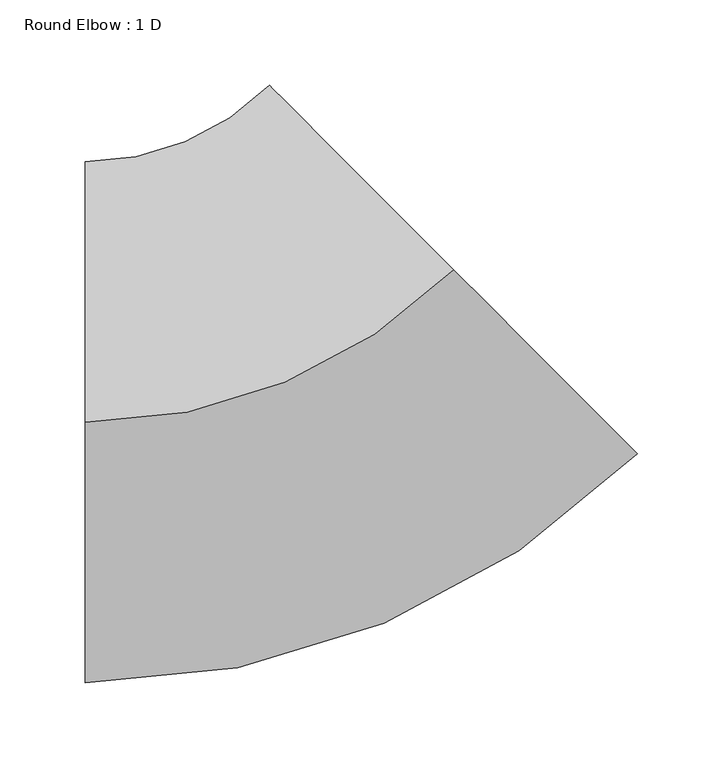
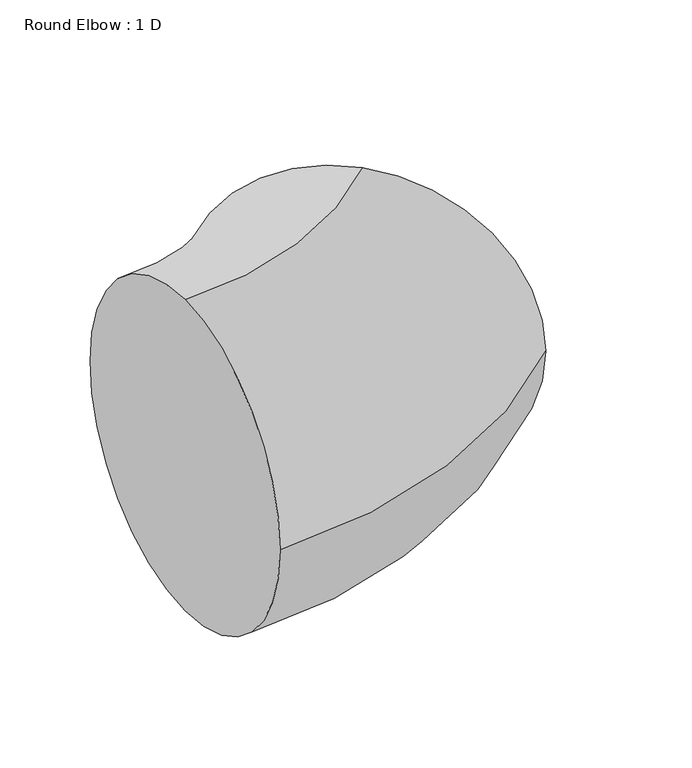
"""IFC4 building model written with IfcOpenShell, lengths in millimetres: duct fitting geometry, Round Elbow : 1 D."""

from ifc_helpers import new_model, si_unit, point, frame, origin, place, context, project, spatial, circle_curve, ellipse_curve, trimmed, source, transform, mapped, element, save
from ifc_brep_helpers import plane_surface, revolved_surface, advanced_brep


def round_elbow_1_d_28128332(model_context):
    return source(origin(), model_context, "Body", "AdvancedBrep", [
        advanced_brep(
        [(-126.2522938, 0.0, 152.4), (-126.2522938, 152.4, 0.0), (-126.2522938, 0.0, -152.4), (-126.2522938, -152.4, 0.0), (89.2738531, 89.2738531, 152.4), (197.0369265, -18.4892204, 0.0), (89.2738531, 89.2738531, -152.4), (-18.4892204, 197.0369265, 0.0)],
        [
            (0, 1, circle_curve(frame((-126.2522938, 0.0, 0.0), z_axis=(-1.0, 0.0, 0.0), x_axis=(0.0, 1.0, 0.0)), 152.4)),
            (1, 2, circle_curve(frame((-126.2522938, 0.0, 0.0), z_axis=(-1.0, 0.0, 0.0), x_axis=(0.0, 1.0, 0.0)), 152.4)),
            (2, 3, circle_curve(frame((-126.2522938, 0.0, 0.0), z_axis=(-1.0, 0.0, 0.0), x_axis=(0.0, 1.0, 0.0)), 152.4)),
            (3, 0, circle_curve(frame((-126.2522938, 0.0, 0.0), z_axis=(-1.0, 0.0, 0.0), x_axis=(0.0, 1.0, 0.0)), 152.4)),
            (4, 5, circle_curve(frame((89.2738531, 89.2738531, 0.0), z_axis=(0.707106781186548, 0.707106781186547, 0.0), x_axis=(-0.707106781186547, 0.707106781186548, 0.0)), 152.4)),
            (5, 6, circle_curve(frame((89.2738531, 89.2738531, 0.0), z_axis=(0.707106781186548, 0.707106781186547, 0.0), x_axis=(-0.707106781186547, 0.707106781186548, 0.0)), 152.4)),
            (6, 7, circle_curve(frame((89.2738531, 89.2738531, 0.0), z_axis=(0.707106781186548, 0.707106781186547, 0.0), x_axis=(-0.707106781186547, 0.707106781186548, 0.0)), 152.4)),
            (7, 4, circle_curve(frame((89.2738531, 89.2738531, 0.0), z_axis=(0.707106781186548, 0.707106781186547, 0.0), x_axis=(-0.707106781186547, 0.707106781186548, 0.0)), 152.4)),
            (7, 1, circle_curve(frame((-126.2522938, 304.8, 0.0), z_axis=(0.0, 0.0, -1.0), x_axis=(0.0, -1.0, 0.0)), 152.4)),
            (0, 4, circle_curve(frame((-126.2522938, 304.8, 152.4), z_axis=(0.0, 0.0, 1.0), x_axis=(0.0, -1.0, 0.0)), 304.8)),
            (6, 2, circle_curve(frame((-126.2522938, 304.8, -152.4), z_axis=(0.0, 0.0, -1.0), x_axis=(0.0, -1.0, 0.0)), 304.8)),
            (5, 3, circle_curve(frame((-126.2522938, 304.8, 0.0), z_axis=(0.0, 0.0, -1.0), x_axis=(0.0, -1.0, 0.0)), 457.2)),
        ],
        [
            plane_surface(frame((-126.2522938, 0.0, 0.0), z_axis=(-1.0, 0.0, 0.0), x_axis=(0.0, 0.0, 1.0))),
            plane_surface(frame((89.2738531, 89.2738531, 0.0), z_axis=(0.707106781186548, 0.7071067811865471, 0.0), x_axis=(0.0, 0.0, 1.0))),
            revolved_surface(trimmed(ellipse_curve(frame((-126.2522938, 0.0, 0.0), z_axis=(-1.0, 0.0, 0.0), x_axis=(0.0, 1.0, 0.0)), 152.4, 152.4), [point((-126.2522938, 0.0, 152.4))], [point((-126.2522938, 152.4, 0.0))], True, "CARTESIAN"), (-126.2522938, 304.8, 0.0), (0.0, 0.0, 1.0)),
            revolved_surface(trimmed(ellipse_curve(frame((-126.2522938, 0.0, 0.0), z_axis=(-1.0, 0.0, 0.0), x_axis=(0.0, 1.0, 0.0)), 152.4, 152.4), [point((-126.2522938, 152.4, 0.0))], [point((-126.2522938, 0.0, -152.4))], True, "CARTESIAN"), (-126.2522938, 304.8, 0.0), (0.0, 0.0, 1.0)),
            revolved_surface(trimmed(ellipse_curve(frame((-126.2522938, 0.0, 0.0), z_axis=(-1.0, 0.0, 0.0), x_axis=(0.0, 1.0, 0.0)), 152.4, 152.4), [point((-126.2522938, 0.0, -152.4))], [point((-126.2522938, -152.4, 0.0))], True, "CARTESIAN"), (-126.2522938, 304.8, 0.0), (0.0, 0.0, 1.0)),
            revolved_surface(trimmed(ellipse_curve(frame((-126.2522938, 0.0, 0.0), z_axis=(-1.0, 0.0, 0.0), x_axis=(0.0, 1.0, 0.0)), 152.4, 152.4), [point((-126.2522938, -152.4, 0.0))], [point((-126.2522938, 0.0, 152.4))], True, "CARTESIAN"), (-126.2522938, 304.8, 0.0), (0.0, 0.0, 1.0)),
        ],
        [
            (0, [[1, 2, 3, 4]]),
            (1, [[5, 6, 7, 8]]),
            (2, [[9, -1, 10, -8]]),
            (3, [[11, -2, -9, -7]]),
            (4, [[12, -3, -11, -6]]),
            (5, [[-10, -4, -12, -5]]),
        ],
    ),
    ])


if __name__ == "__main__":
    model = new_model("IFC4")
    model_context = context("Model", 3, world=origin())
    ifc_project = project(units=[si_unit("LENGTHUNIT", "METRE", prefix="MILLI")], contexts=[model_context])
    site = spatial("IfcSite", under=ifc_project)
    building = spatial("IfcBuilding", under=site)
    placement = place(None, origin())
    round_elbow_1_d_shape = round_elbow_1_d_28128332(model_context)
    element("IfcDuctFitting", 1, ObjectType="Round Elbow : 1 D", at=placement, inside=building, context=model_context, shape_type="MappedRepresentation", body=[
        mapped(round_elbow_1_d_shape, transform((0.0, 0.0, 0.0), x_axis=(1.0, 0.0, 0.0), y_axis=(0.0, 1.0, 0.0), z_axis=(0.0, 0.0, 1.0))),
    ])
    save(model, "model.ifc")
